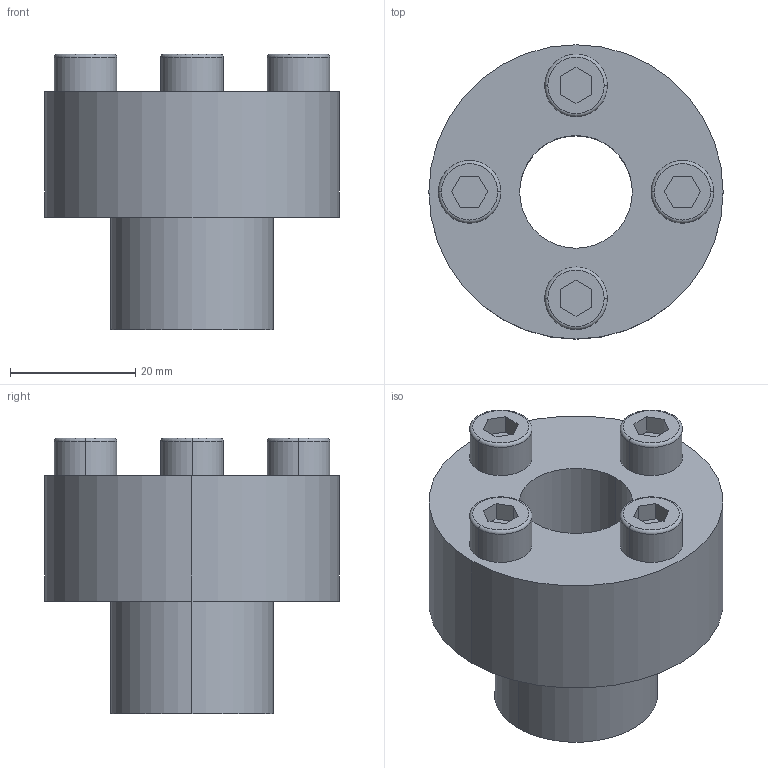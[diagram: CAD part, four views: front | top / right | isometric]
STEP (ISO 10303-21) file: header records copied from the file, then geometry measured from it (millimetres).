
FILE_DESCRIPTION (( 'STEP AP203' ), '1' );
FILE_NAME ('PL-C 18-26.STEP', '2021-10-22T08:29:45', ( '' ), ( '' ), 'SwSTEP 2.0', 'SolidWorks 2018', '' );
FILE_SCHEMA (( 'CONFIG_CONTROL_DESIGN' ));
Length unit declared in the file: millimetre
Products named in the file (1): PL-C 18-26
Bounding box: 47 x 47 x 44 mm (x, y, z)
Volume: 36204.4 mm3; surface area: 10467.6 mm2
Topology: 1 solids, 1 shells, 57 faces, 130 edges, 84 vertices
Faces by surface type: plane 35, cylinder 14, torus 8
Entity records: 1685 total; most frequent: DIRECTION 290, CARTESIAN_POINT 272, ORIENTED_EDGE 260, EDGE_CURVE 130, AXIS2_PLACEMENT_3D 102, VECTOR 86, LINE 86, VERTEX_POINT 84
